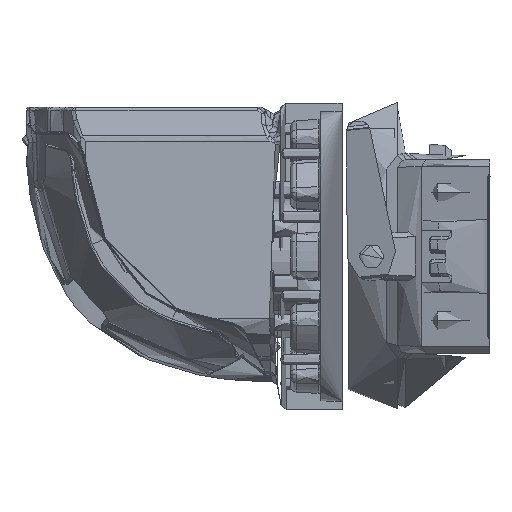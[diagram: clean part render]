
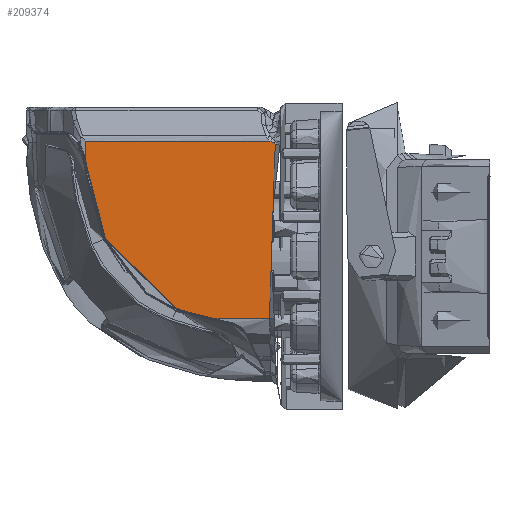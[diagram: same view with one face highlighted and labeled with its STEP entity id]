
A CAD part, left-side view. The second image highlights one B-rep face of the part: STEP entity #209374.
In plain terms, the highlighted planar face has unit normal (-1, 0.009, 0) as drawn and (-0.009, 0, -1) by its records, which use the part's own axes.
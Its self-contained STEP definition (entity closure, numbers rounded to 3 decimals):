
#1529 = DIRECTION ( 'NONE',  ( 0., -1., 0. ) ) ;
#2325 = CARTESIAN_POINT ( 'NONE',  ( 181.935, -120.373, -51.733 ) ) ;
#3366 = LINE ( 'NONE', #83889, #160351 ) ;
#5941 = LINE ( 'NONE', #18316, #174321 ) ;
#5964 = VERTEX_POINT ( 'NONE', #86091 ) ;
#6027 = ORIENTED_EDGE ( 'NONE', *, *, #21476, .F. ) ;
#18316 = CARTESIAN_POINT ( 'NONE',  ( 116.681, -152.772, -51.164 ) ) ;
#21372 = CARTESIAN_POINT ( 'NONE',  ( 156.428, -94.63, -51.511 ) ) ;
#21476 = EDGE_CURVE ( 'NONE', #5964, #137303, #186113, .T. ) ;
#23287 = CARTESIAN_POINT ( 'NONE',  ( 116.681, -147.272, -51.164 ) ) ;
#25119 = VERTEX_POINT ( 'NONE', #175642 ) ;
#27853 = CARTESIAN_POINT ( 'NONE',  ( 148.407, -97.092, -51.44 ) ) ;
#32558 = B_SPLINE_CURVE_WITH_KNOTS ( 'NONE', 3,
 ( #123413, #21372, #187228, #78658, #75485, #38901 ),
 .UNSPECIFIED., .F., .F.,
 ( 4, 2, 4 ),
 ( 0., 0.5, 1. ),
 .UNSPECIFIED. ) ;
#32739 = LINE ( 'NONE', #113765, #169830 ) ;
#33059 = CARTESIAN_POINT ( 'NONE',  ( 177.502, -152.772, -51.694 ) ) ;
#33483 = EDGE_CURVE ( 'NONE', #25119, #200575, #32558, .T. ) ;
#35705 = B_SPLINE_CURVE_WITH_KNOTS ( 'NONE', 3,
 ( #176659, #215714, #67332, #33059 ),
 .UNSPECIFIED., .F., .F.,
 ( 4, 4 ),
 ( 0., 1. ),
 .UNSPECIFIED. ) ;
#37433 = DIRECTION ( 'NONE',  ( 1., 0., -0.009 ) ) ;
#38901 = CARTESIAN_POINT ( 'NONE',  ( 148.407, -97.092, -51.44 ) ) ;
#39438 = EDGE_CURVE ( 'NONE', #137303, #190242, #222477, .T. ) ;
#41961 = EDGE_CURVE ( 'NONE', #200575, #5964, #219767, .T. ) ;
#44754 = EDGE_CURVE ( 'NONE', #210098, #122560, #143541, .T. ) ;
#47112 = EDGE_CURVE ( 'NONE', #190242, #215459, #203496, .T. ) ;
#48052 = ORIENTED_EDGE ( 'NONE', *, *, #47112, .F. ) ;
#52018 = CARTESIAN_POINT ( 'NONE',  ( 177.315, -94.267, -51.693 ) ) ;
#56379 = CARTESIAN_POINT ( 'NONE',  ( 177.315, -94.267, -51.693 ) ) ;
#57952 = EDGE_CURVE ( 'NONE', #176960, #130062, #5941, .T. ) ;
#61976 = ORIENTED_EDGE ( 'NONE', *, *, #33483, .F. ) ;
#67332 = CARTESIAN_POINT ( 'NONE',  ( 178.028, -152.356, -51.699 ) ) ;
#75485 = CARTESIAN_POINT ( 'NONE',  ( 149.975, -96.506, -51.454 ) ) ;
#75528 = AXIS2_PLACEMENT_3D ( 'NONE', #2325, #221673, #1529 ) ;
#76794 = ORIENTED_EDGE ( 'NONE', *, *, #39438, .F. ) ;
#76944 = EDGE_CURVE ( 'NONE', #210098, #25119, #32739, .T. ) ;
#78658 = CARTESIAN_POINT ( 'NONE',  ( 151.571, -95.983, -51.468 ) ) ;
#80648 = CARTESIAN_POINT ( 'NONE',  ( 123.346, -120.679, -51.222 ) ) ;
#82797 = CARTESIAN_POINT ( 'NONE',  ( 146.758, -97.726, -51.426 ) ) ;
#83889 = CARTESIAN_POINT ( 'NONE',  ( 116.681, -147.272, -51.164 ) ) ;
#84140 = EDGE_CURVE ( 'NONE', #122560, #130062, #35705, .T. ) ;
#84301 = CARTESIAN_POINT ( 'NONE',  ( 136.651, -102.935, -51.338 ) ) ;
#85107 = CARTESIAN_POINT ( 'NONE',  ( 141.468, -99.803, -51.38 ) ) ;
#86091 = CARTESIAN_POINT ( 'NONE',  ( 146.758, -97.726, -51.426 ) ) ;
#93171 = PLANE ( 'NONE',  #75528 ) ;
#94296 = FACE_OUTER_BOUND ( 'NONE', #103612, .T. ) ;
#98667 = CARTESIAN_POINT ( 'NONE',  ( 123.346, -120.679, -51.222 ) ) ;
#103612 = EDGE_LOOP ( 'NONE', ( #114148, #154331, #116554, #221894, #48052, #76794, #6027, #189936, #61976, #226875 ) ) ;
#104274 = CARTESIAN_POINT ( 'NONE',  ( 146.758, -97.726, -51.426 ) ) ;
#113765 = CARTESIAN_POINT ( 'NONE',  ( 177.315, -94.267, -51.693 ) ) ;
#114148 = ORIENTED_EDGE ( 'NONE', *, *, #44754, .T. ) ;
#116399 = CARTESIAN_POINT ( 'NONE',  ( 147.305, -97.508, -51.431 ) ) ;
#116554 = ORIENTED_EDGE ( 'NONE', *, *, #57952, .F. ) ;
#121028 = CARTESIAN_POINT ( 'NONE',  ( 125.485, -115.533, -51.24 ) ) ;
#122560 = VERTEX_POINT ( 'NONE', #145467 ) ;
#123413 = CARTESIAN_POINT ( 'NONE',  ( 158.067, -94.267, -51.525 ) ) ;
#128218 = CARTESIAN_POINT ( 'NONE',  ( 179.234, -151.762, -51.71 ) ) ;
#130062 = VERTEX_POINT ( 'NONE', #207498 ) ;
#136154 = CARTESIAN_POINT ( 'NONE',  ( 120.145, -128.379, -51.194 ) ) ;
#137303 = VERTEX_POINT ( 'NONE', #80648 ) ;
#138807 = CARTESIAN_POINT ( 'NONE',  ( 116.884, -146.453, -51.165 ) ) ;
#139599 = CARTESIAN_POINT ( 'NONE',  ( 117.029, -145.617, -51.167 ) ) ;
#140990 = CARTESIAN_POINT ( 'NONE',  ( 128.631, -110.859, -51.268 ) ) ;
#143541 = B_SPLINE_CURVE_WITH_KNOTS ( 'NONE', 3,
 ( #56379, #183260, #201609, #128218 ),
 .UNSPECIFIED., .F., .F.,
 ( 4, 4 ),
 ( 0., 1. ),
 .UNSPECIFIED. ) ;
#145467 = CARTESIAN_POINT ( 'NONE',  ( 179.234, -151.762, -51.71 ) ) ;
#152968 = CARTESIAN_POINT ( 'NONE',  ( 117.123, -144.779, -51.168 ) ) ;
#154331 = ORIENTED_EDGE ( 'NONE', *, *, #84140, .T. ) ;
#155469 = CARTESIAN_POINT ( 'NONE',  ( 147.855, -97.297, -51.436 ) ) ;
#160351 = VECTOR ( 'NONE', #233178, 1000. ) ;
#165127 = CARTESIAN_POINT ( 'NONE',  ( 148.407, -97.092, -51.44 ) ) ;
#169830 = VECTOR ( 'NONE', #202364, 1000. ) ;
#172838 = CARTESIAN_POINT ( 'NONE',  ( 118.05, -136.493, -51.176 ) ) ;
#174321 = VECTOR ( 'NONE', #37433, 1000. ) ;
#175642 = CARTESIAN_POINT ( 'NONE',  ( 158.067, -94.267, -51.525 ) ) ;
#176659 = CARTESIAN_POINT ( 'NONE',  ( 179.234, -151.762, -51.71 ) ) ;
#176960 = VERTEX_POINT ( 'NONE', #235970 ) ;
#183260 = CARTESIAN_POINT ( 'NONE',  ( 175.577, -113.439, -51.678 ) ) ;
#186113 = B_SPLINE_CURVE_WITH_KNOTS ( 'NONE', 3,
 ( #104274, #85107, #84301, #140990, #121028, #212028 ),
 .UNSPECIFIED., .F., .F.,
 ( 4, 2, 4 ),
 ( 0., 0.505, 1. ),
 .UNSPECIFIED. ) ;
#187228 = CARTESIAN_POINT ( 'NONE',  ( 154.798, -95.045, -51.496 ) ) ;
#189936 = ORIENTED_EDGE ( 'NONE', *, *, #41961, .F. ) ;
#190242 = VERTEX_POINT ( 'NONE', #152968 ) ;
#191221 = CARTESIAN_POINT ( 'NONE',  ( 117.123, -144.779, -51.168 ) ) ;
#200575 = VERTEX_POINT ( 'NONE', #165127 ) ;
#201609 = CARTESIAN_POINT ( 'NONE',  ( 176.222, -132.751, -51.683 ) ) ;
#202364 = DIRECTION ( 'NONE',  ( -1., 0., 0.009 ) ) ;
#203496 = B_SPLINE_CURVE_WITH_KNOTS ( 'NONE', 3,
 ( #228233, #139599, #138807, #230603 ),
 .UNSPECIFIED., .F., .F.,
 ( 4, 4 ),
 ( 0., 1. ),
 .UNSPECIFIED. ) ;
#206010 = EDGE_CURVE ( 'NONE', #215459, #176960, #3366, .T. ) ;
#207498 = CARTESIAN_POINT ( 'NONE',  ( 177.502, -152.772, -51.694 ) ) ;
#209374 = ADVANCED_FACE ( 'NONE', ( #94296 ), #93171, .T. ) ;
#210098 = VERTEX_POINT ( 'NONE', #52018 ) ;
#212028 = CARTESIAN_POINT ( 'NONE',  ( 123.346, -120.679, -51.222 ) ) ;
#215459 = VERTEX_POINT ( 'NONE', #23287 ) ;
#215714 = CARTESIAN_POINT ( 'NONE',  ( 178.613, -152.015, -51.704 ) ) ;
#219767 = B_SPLINE_CURVE_WITH_KNOTS ( 'NONE', 3,
 ( #27853, #155469, #116399, #82797 ),
 .UNSPECIFIED., .F., .F.,
 ( 4, 4 ),
 ( 0., 1. ),
 .UNSPECIFIED. ) ;
#221673 = DIRECTION ( 'NONE',  ( -0.009, 0., -1. ) ) ;
#221894 = ORIENTED_EDGE ( 'NONE', *, *, #206010, .F. ) ;
#222477 = B_SPLINE_CURVE_WITH_KNOTS ( 'NONE', 3,
 ( #98667, #136154, #172838, #191221 ),
 .UNSPECIFIED., .F., .F.,
 ( 4, 4 ),
 ( 0., 1. ),
 .UNSPECIFIED. ) ;
#226875 = ORIENTED_EDGE ( 'NONE', *, *, #76944, .F. ) ;
#228233 = CARTESIAN_POINT ( 'NONE',  ( 117.123, -144.779, -51.168 ) ) ;
#230603 = CARTESIAN_POINT ( 'NONE',  ( 116.681, -147.272, -51.164 ) ) ;
#233178 = DIRECTION ( 'NONE',  ( 0., -1., 0. ) ) ;
#235970 = CARTESIAN_POINT ( 'NONE',  ( 116.681, -152.772, -51.164 ) ) ;
